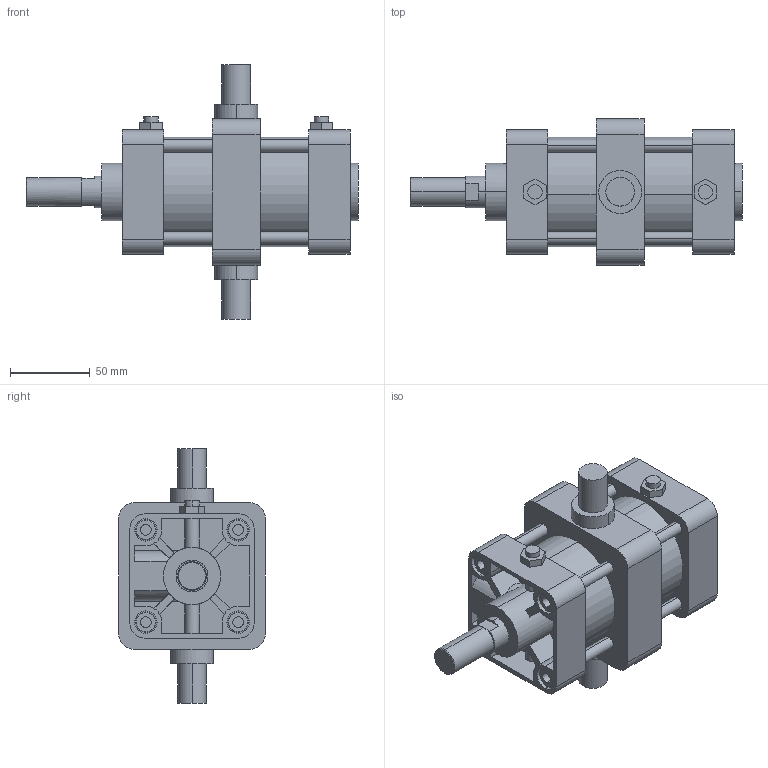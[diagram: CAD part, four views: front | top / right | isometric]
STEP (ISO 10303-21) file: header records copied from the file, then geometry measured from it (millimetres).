
FILE_DESCRIPTION (( 'STEP AP203' ), '1' );
FILE_NAME ('KG2-63-50-T.STEP', '2016-04-01T08:16:59', ( '' ), ( '' ), 'SwSTEP 2.0', 'SolidWorks 2014', '' );
FILE_SCHEMA (( 'CONFIG_CONTROL_DESIGN' ));
Length unit declared in the file: millimetre
Products named in the file (7): K-63-T; KGLH2-63-50; KG2-63-50-T; KG2-63-After
Assembly tree (16 placements, depth 2):
  KG2-63-50-T
    KG2-63-After
    KGLH2-63-50
    (unnamed)
    (unnamed)  x4
    (unnamed)  x8
    K-63-T
Bounding box: 208.5 x 92 x 160 mm (x, y, z)
Volume: 758077.6 mm3; surface area: 152720.7 mm2
Topology: 16 solids, 16 shells, 347 faces, 824 edges, 528 vertices
Faces by surface type: plane 147, cylinder 142, torus 32, cone 26
Entity records: 8894 total; most frequent: CARTESIAN_POINT 1551, DIRECTION 1404, ORIENTED_EDGE 1268, EDGE_CURVE 634, AXIS2_PLACEMENT_3D 526, VERTEX_POINT 418, VECTOR 352, LINE 352
